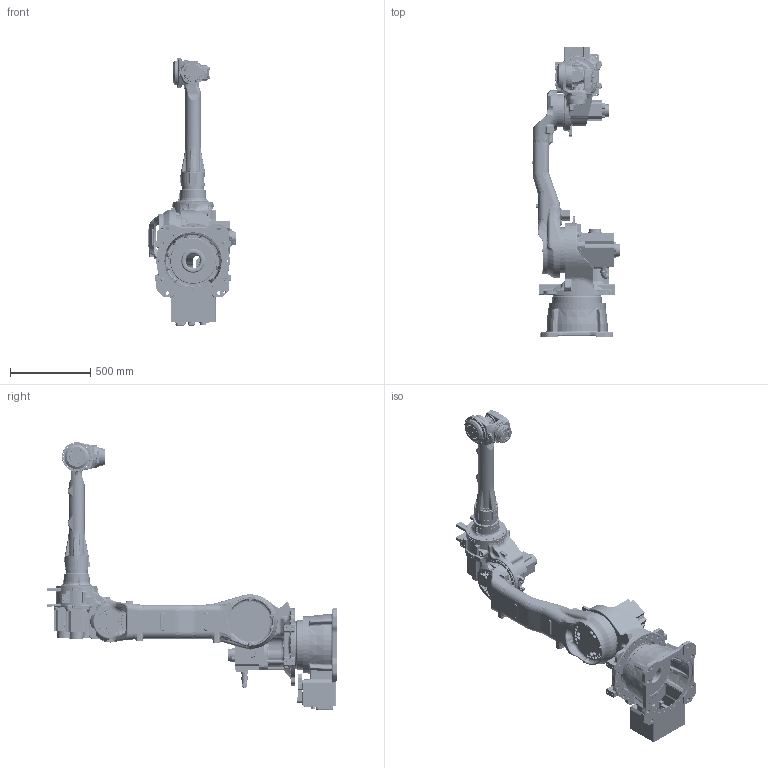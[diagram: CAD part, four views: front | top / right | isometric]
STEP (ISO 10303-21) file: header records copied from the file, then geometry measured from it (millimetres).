
FILE_DESCRIPTION (( 'STEP AP214' ), '1' );
FILE_NAME ('MPL80.STEP', '2010-02-19T08:58:41', ( 'PC-Hagl' ), ( 'MOTOMAN robotec GmbH' ), 'SwSTEP 2.0', 'SolidWorks 2008', '' );
FILE_SCHEMA (( 'AUTOMOTIVE_DESIGN' ));
Length unit declared in the file: millimetre
Products named in the file (8): MPL80_01_Standard; MPL80_02_Standard; MPL80_03_Standard; MPL80_04_Standard; MPL80_05_Standard; MPL80_06_Standard; MPL80_07_Standard; MPL80
Assembly tree (7 placements, depth 2):
  MPL80
    MPL80_02_Standard
    MPL80_07_Standard
    MPL80_01_Standard
    MPL80_06_Standard
    MPL80_05_Standard
    MPL80_03_Standard
    MPL80_04_Standard
Bounding box: 543 x 1805 x 1665.2 mm (x, y, z)
Volume: 87434090.8 mm3; surface area: 7175610.2 mm2
Topology: 7 solids, 7 shells, 10642 faces, 26837 edges, 16400 vertices
Faces by surface type: cylinder 4432, bspline 2705, plane 2566, cone 939
Entity records: 559031 total; most frequent: CARTESIAN_POINT 289388, ORIENTED_EDGE 52478, DIRECTION 41465, EDGE_CURVE 26239, VERTEX_POINT 16398, AXIS2_PLACEMENT_3D 16004, EDGE_LOOP 12037, FACE_OUTER_BOUND 10642
